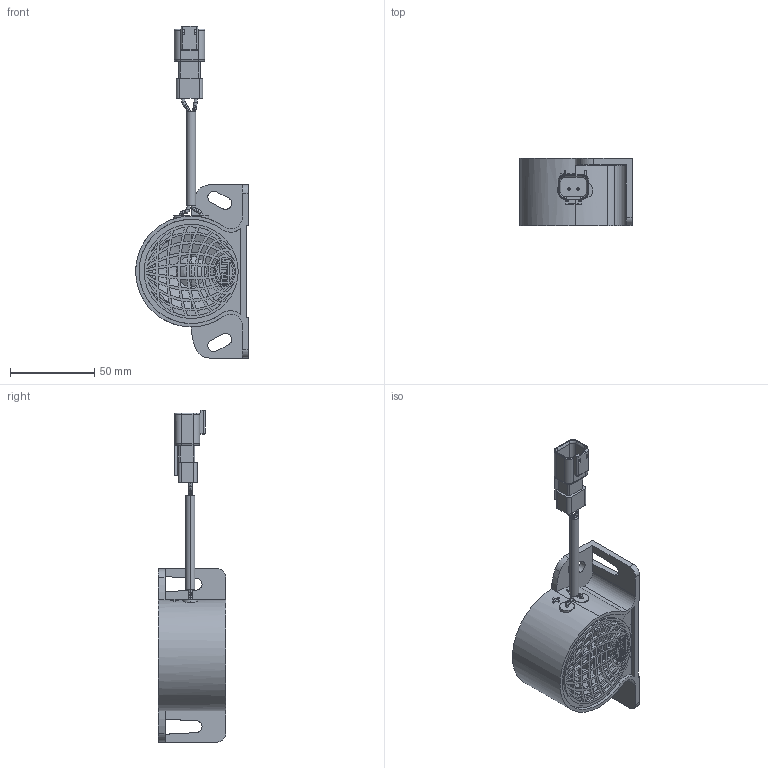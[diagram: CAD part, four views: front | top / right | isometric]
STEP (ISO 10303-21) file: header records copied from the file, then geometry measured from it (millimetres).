
FILE_DESCRIPTION(('CATIA V5 STEP Exchange','CAx-IF Rec.Pracs.--- Model Styling and Organization---1.5--- 2016-08-15','CAx-IF Rec.Pracs.---Supplemental Geometry---1.0---2011-11-01','CAx-IF Rec.Pracs.--- Composite Materials ---1.1---2010-07-15'),'2;1');
FILE_NAME('E:\tmp\ddx\2011226\HELLA_3D_Data_Reverse_and_warning_alarm_BM10_3SL-009-148-19.stp','2022-01-18T07:32:39+00:00',('none'),('none'),'CATIA Version 5-6 Release 2020 SP3 HF9','CATIA V5 STEP AP214 Edition 3 v2','none');
FILE_SCHEMA(('AUTOMOTIVE_DESIGN { 1 0 10303 214 3 1 1 1 }'));
Length unit declared in the file: millimetre
Products named in the file (1): 10002983886_D10_001
Bounding box: 67 x 40 x 197.51 mm (x, y, z)
Volume: 76165.7 mm3; surface area: 54956.8 mm2
Topology: 2 solids, 4 shells, 1096 faces, 3223 edges, 2202 vertices
Faces by surface type: cylinder 397, plane 383, extrusion 210, torus 68, revolution 26, cone 7, bspline 5
Entity records: 40846 total; most frequent: CARTESIAN_POINT 12926, ORIENTED_EDGE 6442, DIRECTION 4361, EDGE_CURVE 3221, VERTEX_POINT 2202, AXIS2_PLACEMENT_3D 1748, VECTOR 1678, LINE 1468
